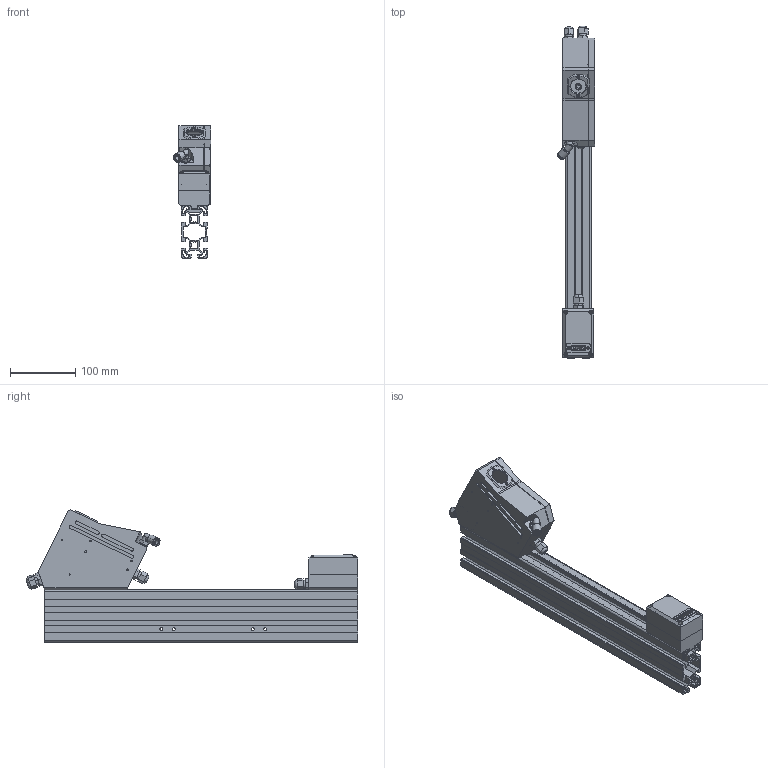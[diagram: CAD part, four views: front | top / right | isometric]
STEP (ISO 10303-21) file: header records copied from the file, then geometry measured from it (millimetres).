
FILE_DESCRIPTION (( 'STEP AP203' ), '1' );
FILE_NAME ('RF 625-425_990.STEP', '2014-04-24T11:54:42', ( 'DNA7 X86' ), ( 'DNA Project' ), 'SwSTEP 2.0', 'SolidWorks 2012', '' );
FILE_SCHEMA (( 'CONFIG_CONTROL_DESIGN' ));
Length unit declared in the file: millimetre
Products named in the file (15): RF 625-425_990; RF 620.028_如塍鬣蝈朦; RF049.35_Ðàìêà îêíà; 2D_êðûøêà ëàç. 288; 2D_îñíîâà ëàç. 288; Øàéáà ïðóæèííàÿ_5; Âèíò_Ì5õ15; RF 620.28.068_Êðûøêà îïòèêè Íîâ ýë; FESTO QSL_F_G1''8_8; RF 620.28.067_Îñíîâà îïòèêè Íîâ ýë; 2D_瀇鳧罻2 288; 2D_瀇鳧罻1 288; RF049.00_Ðàìêà îêíà2; 佤瞁鍱; Rexroth-3 842 993  USA_1000
Assembly tree (20 placements, depth 3):
  RF 625-425_990
    Rexroth-3 842 993  USA_1000
    佤瞁鍱  x3
    RF049.00_Ðàìêà îêíà2
    2D_瀇鳧罻1 288
    2D_瀇鳧罻2 288
    RF 620.28.067_Îñíîâà îïòèêè Íîâ ýë
    FESTO QSL_F_G1''8_8
    RF 620.28.068_Êðûøêà îïòèêè Íîâ ýë
    Âèíò_Ì5õ15  x2
    Øàéáà ïðóæèííàÿ_5  x2
    RF 620.028_如塍鬣蝈朦
      2D_îñíîâà ëàç. 288
      2D_êðûøêà ëàç. 288
      佤瞁鍱
      2D_瀇鳧罻1 288
      RF049.35_Ðàìêà îêíà
Bounding box: 58.07 x 508.36 x 202.72 mm (x, y, z)
Volume: 834404.7 mm3; surface area: 573584.4 mm2
Topology: 19 solids, 19 shells, 1122 faces, 2961 edges, 1888 vertices
Faces by surface type: plane 603, cylinder 406, cone 93, torus 18, bspline 2
Entity records: 33241 total; most frequent: CARTESIAN_POINT 6111, DIRECTION 5343, ORIENTED_EDGE 5258, EDGE_CURVE 2629, AXIS2_PLACEMENT_3D 1806, VECTOR 1731, LINE 1731, VERTEX_POINT 1702
